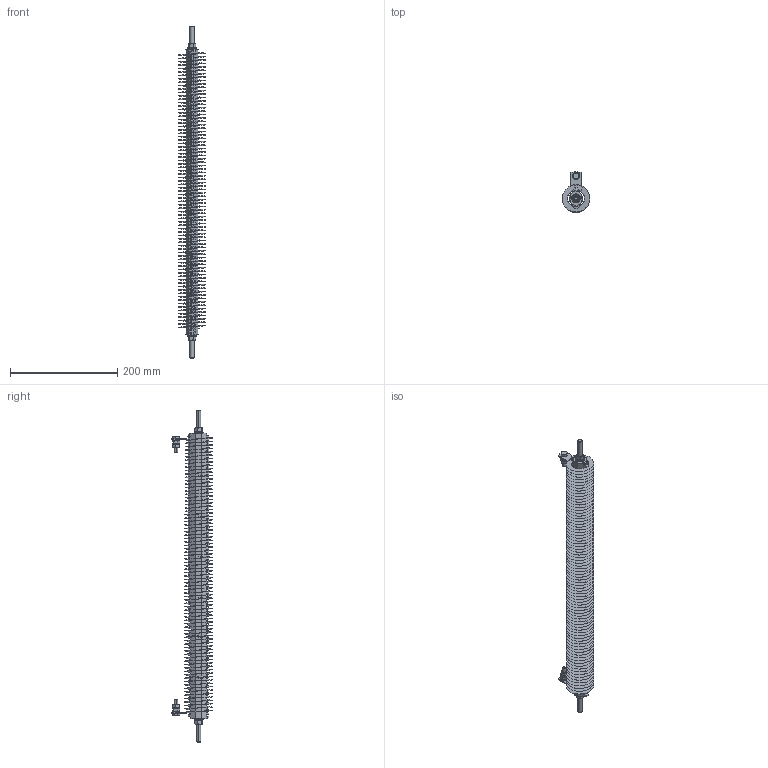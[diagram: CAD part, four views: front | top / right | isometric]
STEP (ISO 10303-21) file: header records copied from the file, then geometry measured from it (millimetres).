
FILE_DESCRIPTION (( 'STEP AP214' ), '1' );
FILE_NAME ('EDGS1400.STEP', '2014-06-05T12:44:06', ( '' ), ( '' ), 'SwSTEP 2.0', 'SolidWorks 2012', '' );
FILE_SCHEMA (( 'AUTOMOTIVE_DESIGN' ));
Products named in the file (14): 032-012 - STUD MOUNT CERAMICS_032-012-TSMCL; Hex Nut01_0.3125" - 0.26" thk; Lock Washer_0.3125" - 0.08" thk; Flat Washer_.3125" - .68" - .05"thk; Flat Washer_.25" - .5" - .04"thk; 12-800-011; lock washer spring_Regular LW 0.25; hex nut_HNUT 0.2500-20-D-C; Hex Head Srew_HBOLT 0.2500-20x1x1-C; 326167; Helical Coil_1400; 032-012 - STUD MOUNT CERAMICS_032-012-TSECL; 0.30 inch threaded rod_0.3125" - 24.375" long; EDGS1400
Assembly tree (31 placements, depth 2):
  EDGS1400
    0.30 inch threaded rod_0.3125" - 24.375" long
    032-012 - STUD MOUNT CERAMICS_032-012-TSECL  x2
    Helical Coil_1400
    326167  x2
    Hex Head Srew_HBOLT 0.2500-20x1x1-C  x2
    hex nut_HNUT 0.2500-20-D-C  x4
    lock washer spring_Regular LW 0.25  x2
    12-800-011  x2
    Flat Washer_.25" - .5" - .04"thk  x4
    Flat Washer_.3125" - .68" - .05"thk  x2
    Lock Washer_0.3125" - 0.08" thk  x2
    Hex Nut01_0.3125" - 0.26" thk  x2
    032-012 - STUD MOUNT CERAMICS_032-012-TSMCL  x5
Bounding box: 50.77 x 75.4 x 619.13 mm (x, y, z)
Volume: 322378.5 mm3; surface area: 309951.1 mm2
Topology: 31 solids, 31 shells, 1132 faces, 3084 edges, 2004 vertices
Faces by surface type: bspline 522, plane 374, cone 120, cylinder 100, torus 16
Entity records: 138569 total; most frequent: CARTESIAN_POINT 130429, ORIENTED_EDGE 1952, DIRECTION 1053, EDGE_CURVE 976, VERTEX_POINT 632, AXIS2_PLACEMENT_3D 393, EDGE_LOOP 382, ADVANCED_FACE 368
